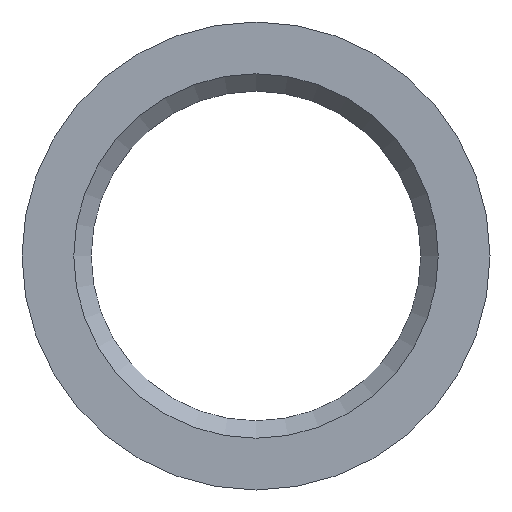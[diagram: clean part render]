
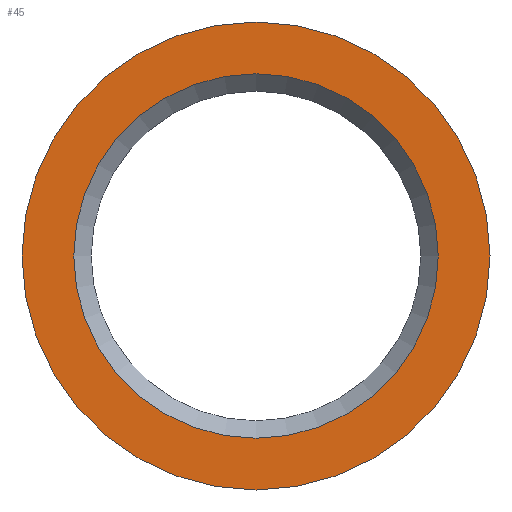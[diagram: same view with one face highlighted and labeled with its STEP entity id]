
A CAD part, front view. The second image highlights one B-rep face of the part: STEP entity #45.
In plain terms, the highlighted planar face has unit normal (0, -1, 0).
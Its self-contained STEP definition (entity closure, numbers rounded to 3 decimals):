
#45=ADVANCED_FACE('',(#72,#74),#76,.F.);
#72=FACE_BOUND('',#73,.T.);
#73=EDGE_LOOP('',(#223));
#74=FACE_BOUND('',#75,.T.);
#75=EDGE_LOOP('',(#224));
#76=PLANE('',#77);
#77=AXIS2_PLACEMENT_3D('',#78,#79,#80);
#78=CARTESIAN_POINT('',(0.,0.,0.));
#79=DIRECTION('',(0.,1.,0.));
#80=DIRECTION('',(-1.,0.,0.));
#223=ORIENTED_EDGE('',*,*,#307,.F.);
#224=ORIENTED_EDGE('',*,*,#308,.T.);
#307=EDGE_CURVE('',#362,#362,#363,.T.);
#308=EDGE_CURVE('',#364,#364,#365,.T.);
#362=VERTEX_POINT('',#467);
#363=CIRCLE('',#468,21.5);
#364=VERTEX_POINT('',#472);
#365=CIRCLE('',#473,16.746);
#467=CARTESIAN_POINT('',(-21.5,0.,0.));
#468=AXIS2_PLACEMENT_3D('',#469,#470,#471);
#469=CARTESIAN_POINT('',(0.,0.,0.));
#470=DIRECTION('',(0.,1.,0.));
#471=DIRECTION('',(-1.,0.,0.));
#472=CARTESIAN_POINT('',(-16.746,0.,0.));
#473=AXIS2_PLACEMENT_3D('',#474,#475,#476);
#474=CARTESIAN_POINT('',(0.,0.,0.));
#475=DIRECTION('',(0.,1.,0.));
#476=DIRECTION('',(-1.,0.,0.));
